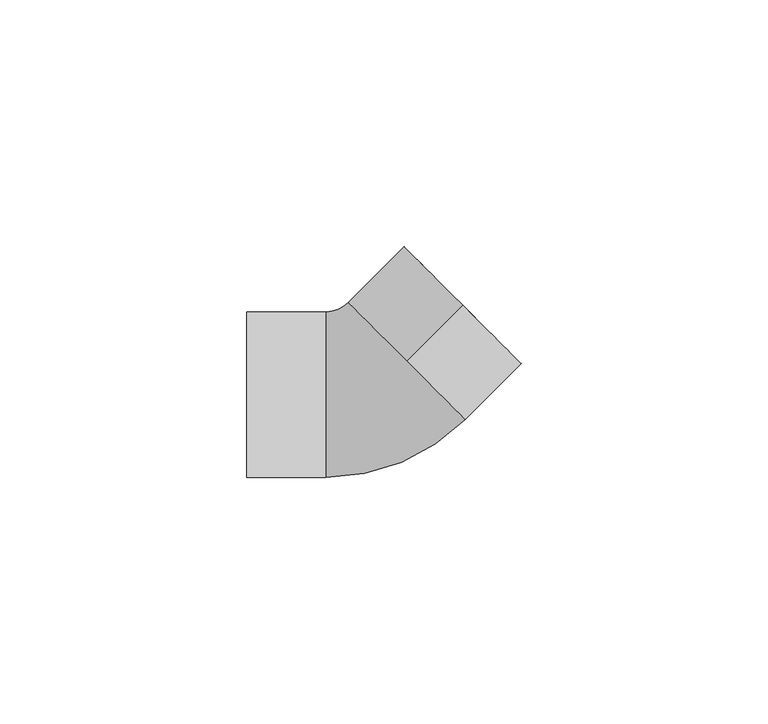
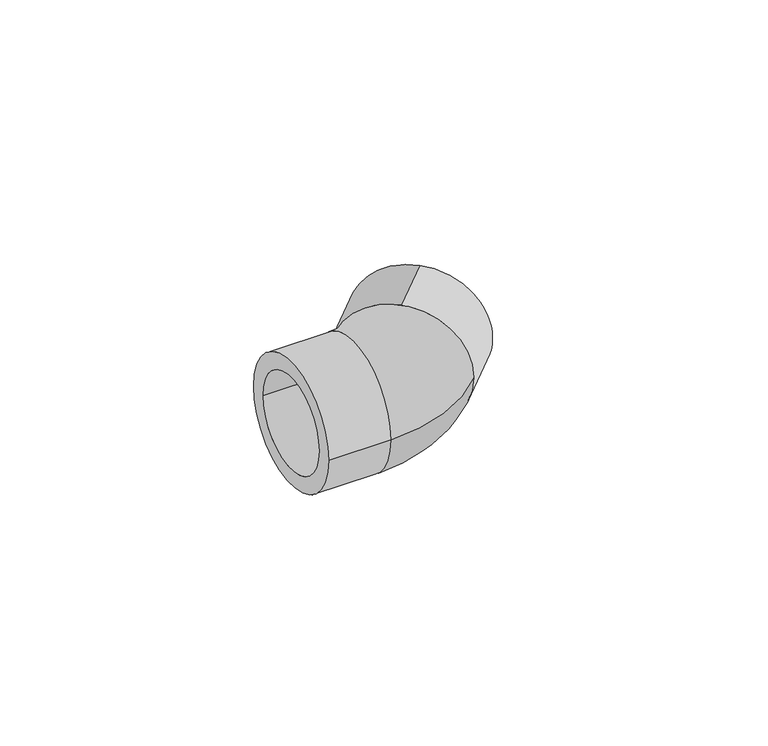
"""IFC4 building model written with IfcOpenShell, lengths in millimetres: pipe fitting geometry, 34_Угольник полипропиленовый 45 : Серый цвет."""

from ifc_helpers import new_model, si_unit, point, frame, origin, place, context, project, spatial, polyline, circle_curve, ellipse_curve, trimmed, source, transform, mapped, element, save
from ifc_brep_helpers import plane_surface, cylinder_surface, revolved_surface, advanced_brep


def pipe_fitting_dcf40ec0(model_context):
    return source(origin(), model_context, "Body", "AdvancedBrep", [
        advanced_brep(
        [(-25.5683333, -16.75, 0.0), (-25.5683333, 16.75, 0.0), (-25.5683333, -12.5, 0.0), (-25.5683333, 12.5, 0.0), (-9.5683333, 16.75, 0.0), (-9.5683333, -16.75, 0.0), (-9.5683333, 12.5, 0.0), (-9.5683333, -12.5, 0.0), (-9.5683333, -11.0, 0.0), (-9.5683333, 11.0, 0.0), (6.7658334, 6.7658334, 12.5), (6.7658334, 6.7658334, -12.5), (14.5440079, -1.0123412, 0.0), (-1.0123412, 14.5440079, 0.0), (-5.0782052, 18.6098719, 0.0), (18.6098719, -5.0782052, 0.0), (6.7658334, 6.7658334, 16.75), (6.7658334, 6.7658334, -16.75), (18.0795419, 18.0795419, -16.75), (18.0795419, 18.0795419, 16.75), (18.0795419, 18.0795419, -12.5), (18.0795419, 18.0795419, 12.5)],
        [
            (0, 1, circle_curve(frame((-25.5683333, 0.0, 0.0), z_axis=(-1.0, 0.0, 0.0), x_axis=(0.0, 1.0, 0.0)), 16.75)),
            (1, 0, circle_curve(frame((-25.5683333, 0.0, 0.0), z_axis=(-1.0, 0.0, 0.0), x_axis=(0.0, 1.0, 0.0)), 16.75)),
            (2, 3, circle_curve(frame((-25.5683333, 0.0, 0.0), z_axis=(1.0, 0.0, 0.0), x_axis=(0.0, 1.0, 0.0)), 12.5)),
            (3, 2, circle_curve(frame((-25.5683333, 0.0, 0.0), z_axis=(1.0, 0.0, 0.0), x_axis=(0.0, 1.0, 0.0)), 12.5)),
            (1, 4),
            (4, 5, circle_curve(frame((-9.5683333, 0.0, 0.0), z_axis=(-1.0, 0.0, 0.0), x_axis=(0.0, 1.0, 0.0)), 16.75)),
            (5, 0),
            (5, 4, circle_curve(frame((-9.5683333, 0.0, 0.0), z_axis=(-1.0, 0.0, 0.0), x_axis=(0.0, 1.0, 0.0)), 16.75)),
            (3, 6),
            (6, 7, circle_curve(frame((-9.5683333, 0.0, 0.0), z_axis=(1.0, 0.0, 0.0), x_axis=(0.0, 1.0, 0.0)), 12.5)),
            (7, 2),
            (7, 6, circle_curve(frame((-9.5683333, 0.0, 0.0), z_axis=(1.0, 0.0, 0.0), x_axis=(0.0, 1.0, 0.0)), 12.5)),
            (8, 9, circle_curve(frame((-9.5683333, 0.0, 0.0), z_axis=(1.0, 0.0, 0.0), x_axis=(0.0, 1.0, 0.0)), 11.0)),
            (9, 8, circle_curve(frame((-9.5683333, 0.0, 0.0), z_axis=(1.0, 0.0, 0.0), x_axis=(0.0, 1.0, 0.0)), 11.0)),
            (10, 11, circle_curve(frame((6.7658334, 6.7658334, 0.0), z_axis=(0.707106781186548, 0.707106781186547, 0.0), x_axis=(0.0, 0.0, 1.0)), 12.5)),
            (11, 10, circle_curve(frame((6.7658334, 6.7658334, 0.0), z_axis=(0.707106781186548, 0.707106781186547, 0.0), x_axis=(0.0, 0.0, 1.0)), 12.5)),
            (12, 13, circle_curve(frame((6.7658334, 6.7658334, 0.0), z_axis=(-0.7071067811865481, -0.7071067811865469, 0.0), x_axis=(-0.7071067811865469, 0.7071067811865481, 0.0)), 11.0)),
            (13, 12, circle_curve(frame((6.7658334, 6.7658334, 0.0), z_axis=(-0.7071067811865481, -0.7071067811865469, 0.0), x_axis=(-0.7071067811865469, 0.7071067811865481, 0.0)), 11.0)),
            (14, 4, circle_curve(frame((-9.5683333, 23.1, 0.0), z_axis=(0.0, 0.0, -1.0), x_axis=(0.0, -1.0, 0.0)), 6.35)),
            (5, 15, circle_curve(frame((-9.5683333, 23.1, 0.0), z_axis=(0.0, 0.0, 1.0), x_axis=(0.0, -1.0, 0.0)), 39.85)),
            (15, 16, circle_curve(frame((6.7658334, 6.7658334, 0.0), z_axis=(-0.7071067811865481, -0.7071067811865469, 0.0), x_axis=(-0.7071067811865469, 0.7071067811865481, 0.0)), 16.75)),
            (16, 14, circle_curve(frame((6.7658334, 6.7658334, 0.0), z_axis=(-0.7071067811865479, -0.7071067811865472, 0.0), x_axis=(-0.7071067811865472, 0.7071067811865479, 0.0)), 16.75)),
            (14, 17, circle_curve(frame((6.7658334, 6.7658334, 0.0), z_axis=(-0.7071067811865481, -0.7071067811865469, 0.0), x_axis=(-0.7071067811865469, 0.7071067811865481, 0.0)), 16.75)),
            (17, 15, circle_curve(frame((6.7658334, 6.7658334, 0.0), z_axis=(-0.7071067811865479, -0.7071067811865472, 0.0), x_axis=(-0.7071067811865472, 0.7071067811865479, 0.0)), 16.75)),
            (8, 12, circle_curve(frame((-9.5683333, 23.1, 0.0), z_axis=(0.0, 0.0, 1.0), x_axis=(0.0, -1.0, 0.0)), 34.1)),
            (13, 9, circle_curve(frame((-9.5683333, 23.1, 0.0), z_axis=(0.0, 0.0, -1.0), x_axis=(0.0, -1.0, 0.0)), 12.1)),
            (18, 19, circle_curve(frame((18.0795419, 18.0795419, 0.0), z_axis=(0.707106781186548, 0.707106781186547, 0.0), x_axis=(0.0, 0.0, 1.0)), 16.75)),
            (19, 18, circle_curve(frame((18.0795419, 18.0795419, 0.0), z_axis=(0.707106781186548, 0.707106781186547, 0.0), x_axis=(0.0, 0.0, 1.0)), 16.75)),
            (20, 21, circle_curve(frame((18.0795419, 18.0795419, 0.0), z_axis=(-0.707106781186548, -0.707106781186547, 0.0), x_axis=(0.0, 0.0, 1.0)), 12.5)),
            (21, 20, circle_curve(frame((18.0795419, 18.0795419, 0.0), z_axis=(-0.707106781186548, -0.707106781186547, 0.0), x_axis=(0.0, 0.0, 1.0)), 12.5)),
            (18, 17),
            (16, 19),
            (20, 11),
            (10, 21),
        ],
        [
            plane_surface(frame((-25.5683333, 16.75, 0.0), z_axis=(-1.0, 0.0, 0.0), x_axis=(0.0, 0.0, -1.0))),
            cylinder_surface(frame((-25.5683333, 0.0, 0.0), z_axis=(1.0, 0.0, 0.0), x_axis=(0.0, 1.0, 0.0)), 16.75),
            revolved_surface(polyline([(-25.5683333, 12.5, 0.0), (-9.5683333, 12.5, 0.0)]), (0.0, 0.0, 0.0), (-1.0, 0.0, 0.0)),
            plane_surface(frame((-9.5683333, 0.0, 0.0), z_axis=(-1.0, 0.0, 0.0), x_axis=(0.0, 0.0, 1.0))),
            plane_surface(frame((6.7658334, 6.7658334, 0.0), z_axis=(0.707106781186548, 0.707106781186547, 0.0), x_axis=(0.0, 0.0, 1.0))),
            revolved_surface(trimmed(ellipse_curve(frame((-9.5683333, 0.0, 0.0), z_axis=(-1.0, 0.0, 0.0), x_axis=(0.0, 1.0, 0.0)), 16.75, 16.75), [point((-9.5683333, -16.75, 0.0))], [point((-9.5683333, 16.75, 0.0))], True, "CARTESIAN"), (-9.5683333, 23.1, 0.0), (0.0, 0.0, 1.0)),
            revolved_surface(trimmed(ellipse_curve(frame((-9.5683333, 0.0, 0.0), z_axis=(-1.0, 0.0, 0.0), x_axis=(0.0, 1.0, 0.0)), 16.75, 16.75), [point((-9.5683333, 16.75, 0.0))], [point((-9.5683333, -16.75, 0.0))], True, "CARTESIAN"), (-9.5683333, 23.1, 0.0), (0.0, 0.0, 1.0)),
            revolved_surface(trimmed(ellipse_curve(frame((-9.5683333, 0.0, 0.0), z_axis=(1.0, 0.0, 0.0), x_axis=(0.0, 1.0, 0.0)), 11.0, 11.0), [point((-9.5683333, -11.0, 0.0))], [point((-9.5683333, 11.0, 0.0))], True, "CARTESIAN"), (-9.5683333, 23.1, 0.0), (0.0, 0.0, 1.0)),
            revolved_surface(trimmed(ellipse_curve(frame((-9.5683333, 0.0, 0.0), z_axis=(1.0, 0.0, 0.0), x_axis=(0.0, 1.0, 0.0)), 11.0, 11.0), [point((-9.5683333, 11.0, 0.0))], [point((-9.5683333, -11.0, 0.0))], True, "CARTESIAN"), (-9.5683333, 23.1, 0.0), (0.0, 0.0, 1.0)),
            plane_surface(frame((18.0795419, 18.0795419, 16.75), z_axis=(0.707106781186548, 0.7071067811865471, 0.0), x_axis=(0.7071067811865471, -0.707106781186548, 0.0))),
            cylinder_surface(frame((6.7658334, 6.7658334, 0.0), z_axis=(0.707106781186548, 0.707106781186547, 0.0), x_axis=(0.0, 0.0, 1.0)), 16.75),
            revolved_surface(polyline([(6.7658334, 6.7658334, 12.5), (18.07954190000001, 18.07954189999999, 12.5)]), (6.7658334, 6.7658334, 0.0), (-0.707106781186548, -0.707106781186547, 0.0)),
        ],
        [
            (0, [[1, 2], [3, 4]]),
            (1, [[-2, 5, 6, 7]]),
            (1, [[-1, -7, 8, -5]]),
            (2, [[-4, 9, 10, 11]]),
            (2, [[-3, -11, 12, -9]]),
            (3, [[-10, -12], [13, 14]]),
            (4, [[15, 16], [17, 18]]),
            (5, [[19, -8, 20, 21, 22]]),
            (6, [[-19, 23, 24, -20, -6]]),
            (7, [[-13, 25, -18, 26]]),
            (8, [[-14, -26, -17, -25]]),
            (9, [[27, 28], [29, 30]]),
            (10, [[-27, 31, -23, -22, 32]]),
            (10, [[-28, -32, -21, -24, -31]]),
            (11, [[-29, 33, -15, 34]]),
            (11, [[-30, -34, -16, -33]]),
        ],
    ),
    ])


if __name__ == "__main__":
    model = new_model("IFC4")
    model_context = context("Model", 3, world=origin())
    ifc_project = project(units=[si_unit("LENGTHUNIT", "METRE", prefix="MILLI")], contexts=[model_context])
    site = spatial("IfcSite", under=ifc_project)
    building = spatial("IfcBuilding", under=site)
    placement = place(None, origin())
    pipe_fitting_shape = pipe_fitting_dcf40ec0(model_context)
    element("IfcPipeFitting", 1, ObjectType="34_Угольник полипропиленовый 45 : Серый цвет", at=placement, inside=building, context=model_context, shape_type="MappedRepresentation", body=[
        mapped(pipe_fitting_shape, transform((0.0, 0.0, 0.0), x_axis=(1.0, 0.0, 0.0), y_axis=(0.0, 1.0, 0.0), z_axis=(0.0, 0.0, 1.0))),
    ])
    save(model, "model.ifc")
